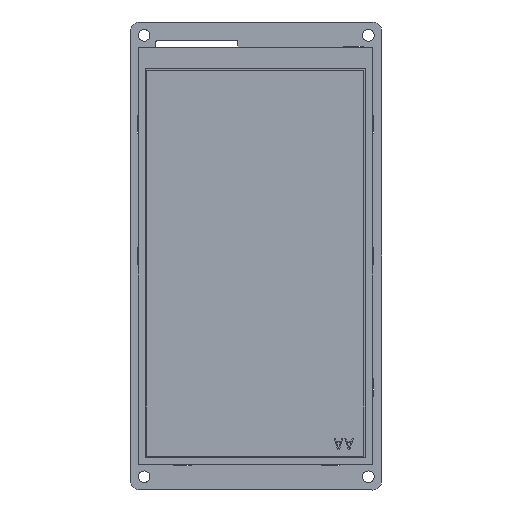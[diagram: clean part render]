
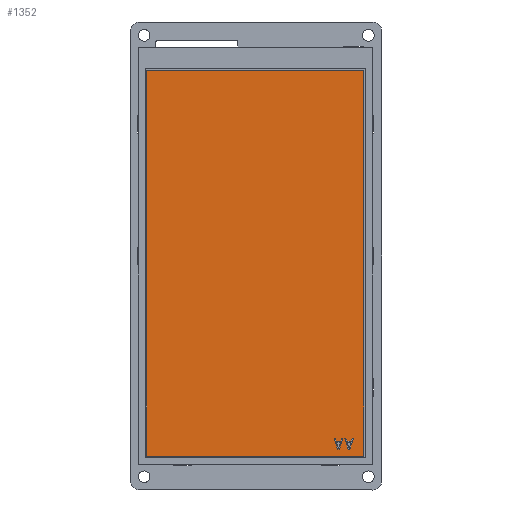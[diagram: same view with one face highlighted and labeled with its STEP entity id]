
A CAD part, front view. The second image highlights one B-rep face of the part: STEP entity #1352.
In plain terms, the highlighted planar face has unit normal (0, -1, 0) as drawn and (0, 1, 0) by its records, which use the part's own axes.
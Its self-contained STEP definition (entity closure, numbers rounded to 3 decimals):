
#779=DIRECTION('',(0.,0.,1.));
#780=VECTOR('',#779,110.4);
#781=CARTESIAN_POINT('',(-31.05,1.51,-57.25));
#782=LINE('',#781,#780);
#783=DIRECTION('',(-1.,0.,0.));
#784=VECTOR('',#783,62.1);
#785=CARTESIAN_POINT('',(31.05,1.51,-57.25));
#786=LINE('',#785,#784);
#787=DIRECTION('',(0.,0.,-1.));
#788=VECTOR('',#787,110.4);
#789=CARTESIAN_POINT('',(31.05,1.51,53.15));
#790=LINE('',#789,#788);
#791=DIRECTION('',(1.,0.,0.));
#792=VECTOR('',#791,62.1);
#793=CARTESIAN_POINT('',(-31.05,1.51,53.15));
#794=LINE('',#793,#792);
#795=DIRECTION('',(0.316,0.,0.949));
#796=VECTOR('',#795,3.162);
#797=CARTESIAN_POINT('',(-26.55,1.51,-55.25));
#798=LINE('',#797,#796);
#799=DIRECTION('',(1.,0.,0.));
#800=VECTOR('',#799,0.5);
#801=CARTESIAN_POINT('',(-27.05,1.51,-55.25));
#802=LINE('',#801,#800);
#803=DIRECTION('',(0.316,0.,-0.949));
#804=VECTOR('',#803,3.162);
#805=CARTESIAN_POINT('',(-28.05,1.51,-52.25));
#806=LINE('',#805,#804);
#807=DIRECTION('',(-1.,0.,0.));
#808=VECTOR('',#807,0.375);
#809=CARTESIAN_POINT('',(-27.675,1.51,-52.25));
#810=LINE('',#809,#808);
#811=DIRECTION('',(-0.31,0.,0.951));
#812=VECTOR('',#811,0.806);
#813=CARTESIAN_POINT('',(-27.425,1.51,-53.016));
#814=LINE('',#813,#812);
#815=DIRECTION('',(-1.,0.,0.));
#816=VECTOR('',#815,1.25);
#817=CARTESIAN_POINT('',(-26.175,1.51,-53.016));
#818=LINE('',#817,#816);
#819=DIRECTION('',(-0.31,0.,-0.951));
#820=VECTOR('',#819,0.806);
#821=CARTESIAN_POINT('',(-25.925,1.51,-52.25));
#822=LINE('',#821,#820);
#823=DIRECTION('',(-1.,0.,0.));
#824=VECTOR('',#823,0.375);
#825=CARTESIAN_POINT('',(-25.55,1.51,-52.25));
#826=LINE('',#825,#824);
#839=DIRECTION('',(0.316,0.,0.949));
#840=VECTOR('',#839,3.162);
#841=CARTESIAN_POINT('',(-23.55,1.51,-55.25));
#842=LINE('',#841,#840);
#843=DIRECTION('',(1.,0.,0.));
#844=VECTOR('',#843,0.5);
#845=CARTESIAN_POINT('',(-24.05,1.51,-55.25));
#846=LINE('',#845,#844);
#847=DIRECTION('',(0.316,0.,-0.949));
#848=VECTOR('',#847,3.162);
#849=CARTESIAN_POINT('',(-25.05,1.51,-52.25));
#850=LINE('',#849,#848);
#851=DIRECTION('',(-1.,0.,0.));
#852=VECTOR('',#851,0.375);
#853=CARTESIAN_POINT('',(-24.675,1.51,-52.25));
#854=LINE('',#853,#852);
#855=DIRECTION('',(-0.31,0.,0.951));
#856=VECTOR('',#855,0.806);
#857=CARTESIAN_POINT('',(-24.425,1.51,-53.016));
#858=LINE('',#857,#856);
#859=DIRECTION('',(-1.,0.,0.));
#860=VECTOR('',#859,1.25);
#861=CARTESIAN_POINT('',(-23.175,1.51,-53.016));
#862=LINE('',#861,#860);
#863=DIRECTION('',(-0.31,0.,-0.951));
#864=VECTOR('',#863,0.806);
#865=CARTESIAN_POINT('',(-22.925,1.51,-52.25));
#866=LINE('',#865,#864);
#867=DIRECTION('',(-1.,0.,0.));
#868=VECTOR('',#867,0.375);
#869=CARTESIAN_POINT('',(-22.55,1.51,-52.25));
#870=LINE('',#869,#868);
#987=CARTESIAN_POINT('',(-31.05,1.51,-57.25));
#988=CARTESIAN_POINT('',(-31.05,1.51,53.15));
#989=VERTEX_POINT('',#987);
#990=VERTEX_POINT('',#988);
#991=CARTESIAN_POINT('',(31.05,1.51,53.15));
#992=VERTEX_POINT('',#991);
#993=CARTESIAN_POINT('',(31.05,1.51,-57.25));
#994=VERTEX_POINT('',#993);
#995=CARTESIAN_POINT('',(-26.55,1.51,-55.25));
#996=CARTESIAN_POINT('',(-25.55,1.51,-52.25));
#997=VERTEX_POINT('',#995);
#998=VERTEX_POINT('',#996);
#999=CARTESIAN_POINT('',(-25.925,1.51,-52.25));
#1000=VERTEX_POINT('',#999);
#1001=CARTESIAN_POINT('',(-26.175,1.51,-53.016));
#1002=VERTEX_POINT('',#1001);
#1003=CARTESIAN_POINT('',(-27.425,1.51,-53.016));
#1004=VERTEX_POINT('',#1003);
#1005=CARTESIAN_POINT('',(-27.675,1.51,-52.25));
#1006=VERTEX_POINT('',#1005);
#1007=CARTESIAN_POINT('',(-28.05,1.51,-52.25));
#1008=VERTEX_POINT('',#1007);
#1009=CARTESIAN_POINT('',(-27.05,1.51,-55.25));
#1010=VERTEX_POINT('',#1009);
#1017=CARTESIAN_POINT('',(-23.55,1.51,-55.25));
#1018=CARTESIAN_POINT('',(-22.55,1.51,-52.25));
#1019=VERTEX_POINT('',#1017);
#1020=VERTEX_POINT('',#1018);
#1021=CARTESIAN_POINT('',(-22.925,1.51,-52.25));
#1022=VERTEX_POINT('',#1021);
#1023=CARTESIAN_POINT('',(-23.175,1.51,-53.016));
#1024=VERTEX_POINT('',#1023);
#1025=CARTESIAN_POINT('',(-24.425,1.51,-53.016));
#1026=VERTEX_POINT('',#1025);
#1027=CARTESIAN_POINT('',(-24.675,1.51,-52.25));
#1028=VERTEX_POINT('',#1027);
#1029=CARTESIAN_POINT('',(-25.05,1.51,-52.25));
#1030=VERTEX_POINT('',#1029);
#1031=CARTESIAN_POINT('',(-24.05,1.51,-55.25));
#1032=VERTEX_POINT('',#1031);
#1305=CARTESIAN_POINT('',(0.,1.51,0.));
#1306=DIRECTION('',(0.,1.,0.));
#1307=DIRECTION('',(1.,0.,0.));
#1308=AXIS2_PLACEMENT_3D('',#1305,#1306,#1307);
#1309=PLANE('',#1308);
#1310=ORIENTED_EDGE('',*,*,#1257,.F.);
#1311=ORIENTED_EDGE('',*,*,#1272,.F.);
#1312=ORIENTED_EDGE('',*,*,#1286,.F.);
#1313=ORIENTED_EDGE('',*,*,#1299,.F.);
#1314=EDGE_LOOP('',(#1310,#1311,#1312,#1313));
#1315=FACE_OUTER_BOUND('',#1314,.F.);
#1317=ORIENTED_EDGE('',*,*,#1316,.F.);
#1319=ORIENTED_EDGE('',*,*,#1318,.F.);
#1321=ORIENTED_EDGE('',*,*,#1320,.F.);
#1323=ORIENTED_EDGE('',*,*,#1322,.F.);
#1325=ORIENTED_EDGE('',*,*,#1324,.F.);
#1327=ORIENTED_EDGE('',*,*,#1326,.F.);
#1329=ORIENTED_EDGE('',*,*,#1328,.F.);
#1331=ORIENTED_EDGE('',*,*,#1330,.F.);
#1332=EDGE_LOOP('',(#1317,#1319,#1321,#1323,#1325,#1327,#1329,#1331));
#1333=FACE_BOUND('',#1332,.F.);
#1335=ORIENTED_EDGE('',*,*,#1334,.F.);
#1337=ORIENTED_EDGE('',*,*,#1336,.F.);
#1339=ORIENTED_EDGE('',*,*,#1338,.F.);
#1341=ORIENTED_EDGE('',*,*,#1340,.F.);
#1343=ORIENTED_EDGE('',*,*,#1342,.F.);
#1345=ORIENTED_EDGE('',*,*,#1344,.F.);
#1347=ORIENTED_EDGE('',*,*,#1346,.F.);
#1349=ORIENTED_EDGE('',*,*,#1348,.F.);
#1350=EDGE_LOOP('',(#1335,#1337,#1339,#1341,#1343,#1345,#1347,#1349));
#1351=FACE_BOUND('',#1350,.F.);
#1257=EDGE_CURVE('',#989,#990,#782,.T.);
#1272=EDGE_CURVE('',#994,#989,#786,.T.);
#1286=EDGE_CURVE('',#992,#994,#790,.T.);
#1299=EDGE_CURVE('',#990,#992,#794,.T.);
#1316=EDGE_CURVE('',#997,#998,#798,.T.);
#1318=EDGE_CURVE('',#1010,#997,#802,.T.);
#1320=EDGE_CURVE('',#1008,#1010,#806,.T.);
#1322=EDGE_CURVE('',#1006,#1008,#810,.T.);
#1324=EDGE_CURVE('',#1004,#1006,#814,.T.);
#1326=EDGE_CURVE('',#1002,#1004,#818,.T.);
#1328=EDGE_CURVE('',#1000,#1002,#822,.T.);
#1330=EDGE_CURVE('',#998,#1000,#826,.T.);
#1334=EDGE_CURVE('',#1019,#1020,#842,.T.);
#1336=EDGE_CURVE('',#1032,#1019,#846,.T.);
#1338=EDGE_CURVE('',#1030,#1032,#850,.T.);
#1340=EDGE_CURVE('',#1028,#1030,#854,.T.);
#1342=EDGE_CURVE('',#1026,#1028,#858,.T.);
#1344=EDGE_CURVE('',#1024,#1026,#862,.T.);
#1346=EDGE_CURVE('',#1022,#1024,#866,.T.);
#1348=EDGE_CURVE('',#1020,#1022,#870,.T.);
#1352=ADVANCED_FACE('',(#1315,#1333,#1351),#1309,.T.);
